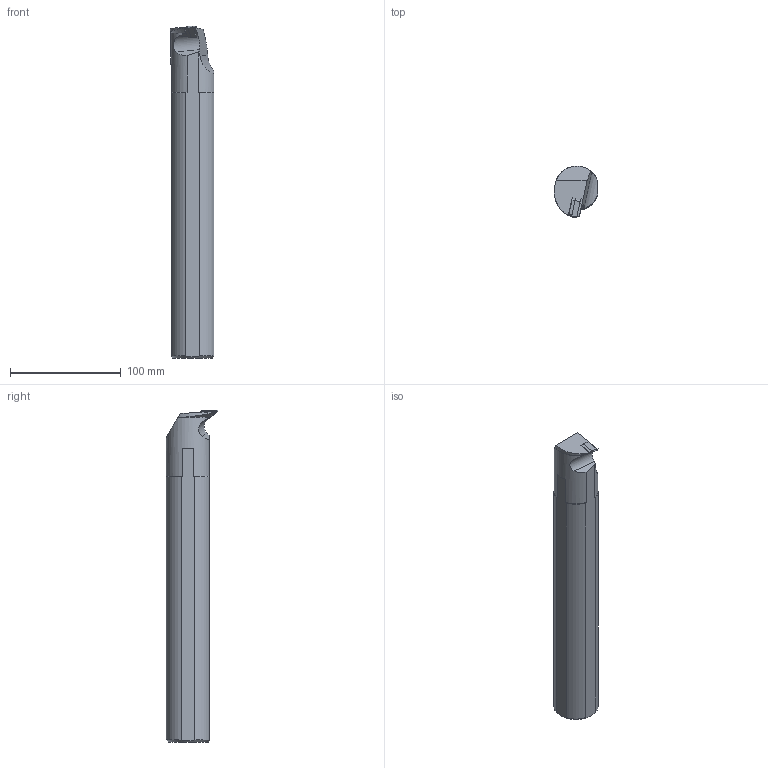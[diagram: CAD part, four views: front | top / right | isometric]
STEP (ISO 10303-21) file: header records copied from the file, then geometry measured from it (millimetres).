
FILE_DESCRIPTION(/* description */ (''),/* implementation_level */ '2;1');
FILE_NAME(/* name */ 'A40T-MVUNR-16-HAAS_210825.stp',/* time_stamp */ '2021-09-30T17:07:48+09:00',/* author */ (''),/* organization */ (''),/* preprocessor_version */ 'ST-DEVELOPER v15',/* originating_system */ 'SIEMENS PLM Software NX 8.5',/* authorisation */ '');
FILE_SCHEMA (('AP203_CONFIGURATION_CONTROLLED_3D_DESIGN_OF_MECHANICAL_PARTS_AND_ASSEMBLIES_MIM_LF { 1 0 10303 403 2 1 2}'));
Length unit declared in the file: millimetre
Products named in the file (1): userF2984F2A8md6
Bounding box: 39.39 x 46.93 x 300 mm (x, y, z)
Volume: 353185.7 mm3; surface area: 39930.8 mm2
Topology: 3 solids, 3 shells, 52 faces, 126 edges, 81 vertices
Faces by surface type: plane 27, cylinder 14, cone 9, bspline 1, torus 1
Full cylindrical faces by diameter (mm): 3.81 x1, 5.77 x1, 6.43 x1
Entity records: 1657 total; most frequent: CARTESIAN_POINT 377, DIRECTION 247, ORIENTED_EDGE 234, EDGE_CURVE 117, AXIS2_PLACEMENT_3D 93, VERTEX_POINT 79, EDGE_LOOP 64, LINE 61
